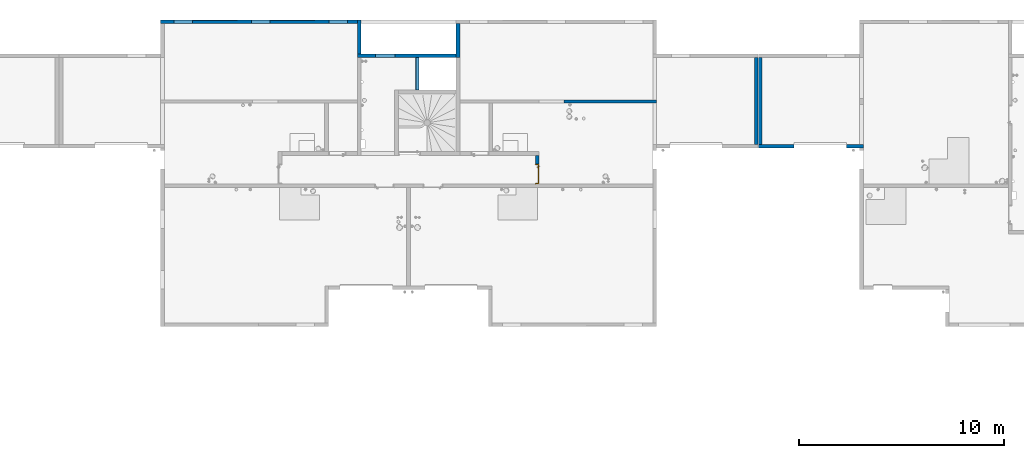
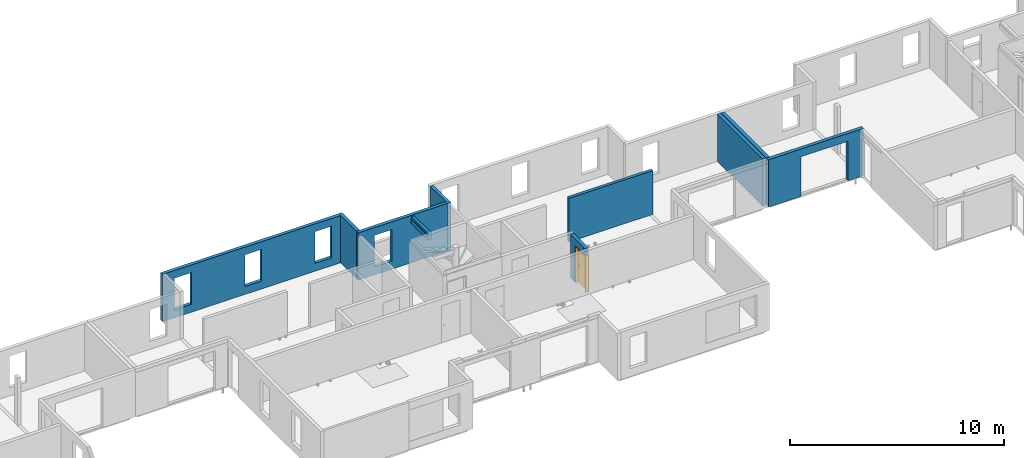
# One storey, part 12 of 30: 10 walls, 1 door, 11 openings.
"""IFC2X3 building model written with IfcOpenShell, lengths in centimetres."""

from ifc_helpers import new_model, entity, si_unit, converted_unit, derived_unit, direction, frame, frame_2d, origin, place, context, subcontext, project, spatial, polyline, rectangle, extrude, clip, bounded_halfspace, faceted_brep, source, transform, mapped, material, material_list, layer, layer_set, layer_usage, type_object, type_shapes, element, fill, save


model = new_model("IFC2X3")

# Units and contexts
model_context = context("Model", 3, precision=0.001, world=origin(), true_north=direction((6.12303176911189e-17, 1.0)))
body_context = subcontext(model_context, "Body", "Model", "MODEL_VIEW")
ifc_project = project(units=[si_unit("LENGTHUNIT", "METRE", prefix="CENTI"), si_unit("AREAUNIT", "SQUARE_METRE"), si_unit("VOLUMEUNIT", "CUBIC_METRE"), converted_unit("PLANEANGLEUNIT", "DEGREE", entity("IfcRatioMeasure", 0.0174532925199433), si_unit("PLANEANGLEUNIT", "RADIAN"), dimensions=[0, 0, 0, 0, 0, 0, 0]), si_unit("MASSUNIT", "GRAM", prefix="KILO"), derived_unit("MASSDENSITYUNIT", [(si_unit("MASSUNIT", "GRAM", prefix="KILO"), 1), (si_unit("LENGTHUNIT", "METRE"), -3)]), si_unit("TIMEUNIT", "SECOND"), si_unit("FREQUENCYUNIT", "HERTZ"), si_unit("THERMODYNAMICTEMPERATUREUNIT", "DEGREE_CELSIUS"), derived_unit("THERMALTRANSMITTANCEUNIT", [(si_unit("MASSUNIT", "GRAM", prefix="KILO"), 1), (si_unit("THERMODYNAMICTEMPERATUREUNIT", "KELVIN"), -1), (si_unit("TIMEUNIT", "SECOND"), -3)]), derived_unit("VOLUMETRICFLOWRATEUNIT", [(si_unit("LENGTHUNIT", "METRE"), 3), (si_unit("TIMEUNIT", "SECOND"), -1)]), si_unit("ELECTRICCURRENTUNIT", "AMPERE"), si_unit("ELECTRICVOLTAGEUNIT", "VOLT"), si_unit("POWERUNIT", "WATT"), si_unit("FORCEUNIT", "NEWTON"), si_unit("ILLUMINANCEUNIT", "LUX"), si_unit("LUMINOUSFLUXUNIT", "LUMEN"), si_unit("LUMINOUSINTENSITYUNIT", "CANDELA"), derived_unit("USERDEFINED", [(si_unit("MASSUNIT", "GRAM", prefix="KILO"), -1), (si_unit("LENGTHUNIT", "METRE"), -2), (si_unit("TIMEUNIT", "SECOND"), 3), (si_unit("LUMINOUSFLUXUNIT", "LUMEN"), 1)]), derived_unit("LINEARVELOCITYUNIT", [(si_unit("LENGTHUNIT", "METRE"), 1), (si_unit("TIMEUNIT", "SECOND"), -1)]), si_unit("PRESSUREUNIT", "PASCAL"), derived_unit("USERDEFINED", [(si_unit("LENGTHUNIT", "METRE"), -2), (si_unit("MASSUNIT", "GRAM", prefix="KILO"), 1), (si_unit("TIMEUNIT", "SECOND"), -2)])], contexts=[model_context])

# Site, building, storey
site_placement = place(None, origin())
site = spatial("IfcSite", under=ifc_project, at=site_placement, Name="Default", CompositionType="ELEMENT")
building_placement = place(site_placement, origin())
building = spatial("IfcBuilding", under=site, at=building_placement, Name="CAGE 03", CompositionType="ELEMENT")
storey_placement = place(building_placement, frame((0.0, 0.0, 610.0)))
storey = spatial("IfcBuildingStorey", under=building, at=storey_placement, Name="R+2", CompositionType="ELEMENT", Elevation=610.0)

# Wall
ifc_material_1 = material(Name="Béton, C25/30")
ifc_layer_1 = layer(ifc_material_1, 18.0)
ifc_layer_set_1 = layer_set([ifc_layer_1], Name="Mur de base:Voile BA 18")
ifc_layer_usage_1 = layer_usage(ifc_layer_set_1, "AXIS2", "POSITIVE", -9.0)
wall_type_1 = type_object("IfcWallType", Name="Mur de base:Voile BA 18", PredefinedType="STANDARD", material=ifc_layer_set_1)
wall_1_placement = place(storey_placement, frame((7322.36582014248, 5275.6606660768, 0.0), z_axis=(0.0, 0.0, 1.0), x_axis=(0.0, -1.0, 0.0)))
element("IfcWallStandardCase", 1, at=wall_1_placement, inside=storey, type_object=wall_type_1, material=ifc_layer_usage_1, Name="Mur de base:Voile BA 18", ObjectType="Mur de base:Voile BA 18", context=body_context, shape_type="SweptSolid", body=[
    extrude(rectangle(XDim=165.0, YDim=17.9999999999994, at=frame_2d((82.4999999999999, -2.1582735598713e-13), x_axis=(-1.0, 0.0))), origin(), (0.0, 0.0, 1.0), 270.0),
])

# Wall, openings
ifc_layer_usage_2 = layer_usage(ifc_layer_set_1, "AXIS2", "POSITIVE", -9.0)
wall_2_placement = place(storey_placement, frame((7313.36582014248, 5119.6606660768, 0.0), z_axis=(0.0, 0.0, 1.0), x_axis=(-1.0, 0.0, 0.0)))
wall_2 = element("IfcWallStandardCase", 2, at=wall_2_placement, inside=storey, type_object=wall_type_1, material=ifc_layer_usage_2, Name="Mur de base:Voile BA 18", ObjectType="Mur de base:Voile BA 18", context=body_context, shape_type="SweptSolid", body=[
    extrude(rectangle(XDim=482.0, YDim=17.9999999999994, at=frame_2d((241.0, -1.90958360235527e-13), x_axis=(-1.0, 0.0))), origin(), (0.0, 0.0, 1.0), 270.0),
])
opening_1_placement = place(wall_2_placement, origin())
element("IfcOpeningElement", 3, at=opening_1_placement, cuts=wall_2, Name="Mur de base:Voile BA 18", ObjectType="Opening", context=body_context, shape_type="SweptSolid", body=[
    extrude(rectangle(XDim=227.0, YDim=18.0000000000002, at=frame_2d((4.33431068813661e-13, 4.9737991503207e-14), x_axis=(0.0, 1.0))), frame((189.0, 9.0, 113.5), z_axis=(0.0, 1.0, 0.0), x_axis=(-1.0, 0.0, 0.0)), (0.0, 0.0, 1.0), 160.0),
])
opening_2_placement = place(wall_2_placement, frame((7313.36582014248, 5119.6606660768, 0.0), z_axis=(0.0, 0.0, 1.0), x_axis=(-1.0, 0.0, 0.0)))
element("IfcOpeningElement", 4, at=opening_2_placement, cuts=wall_2, Name="Mur de base:Voile BA 18", ObjectType="Opening", context=body_context, shape_type="SweptSolid", body=[
    extrude(rectangle(XDim=181.0, YDim=94.9999999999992, at=frame_2d((0.0, 0.0), x_axis=(0.0, 1.0))), frame((6966.86582014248, 5263.0606660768, 135.5), z_axis=(0.0, -1.0, 0.0), x_axis=(1.0, 0.0, 0.0)), (0.0, 0.0, 1.0), 304.8),
])

# Wall
ifc_layer_usage_3 = layer_usage(ifc_layer_set_1, "AXIS2", "POSITIVE", -9.0)
wall_3_placement = place(storey_placement, frame((6840.36582014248, 5128.6606660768, 0.0), z_axis=(0.0, 0.0, 1.0), x_axis=(0.0, 1.0, 0.0)))
element("IfcWallStandardCase", 5, at=wall_3_placement, inside=storey, type_object=wall_type_1, material=ifc_layer_usage_3, Name="Mur de base:Voile BA 18", ObjectType="Mur de base:Voile BA 18", context=body_context, shape_type="SweptSolid", body=[
    extrude(rectangle(XDim=165.000000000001, YDim=17.9999999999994, at=frame_2d((82.5000000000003, 1.77635683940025e-15), x_axis=(-1.0, 0.0))), origin(), (0.0, 0.0, 1.0), 270.0),
])

# Wall, openings
ifc_layer_usage_4 = layer_usage(ifc_layer_set_1, "AXIS2", "POSITIVE", -9.0)
wall_4_placement = place(storey_placement, frame((6831.36582014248, 5284.6606660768, 0.0), z_axis=(0.0, 0.0, 1.0), x_axis=(-1.0, 0.0, 0.0)))
wall_4 = element("IfcWallStandardCase", 6, at=wall_4_placement, inside=storey, type_object=wall_type_1, material=ifc_layer_usage_4, Name="Mur de base:Voile BA 18", ObjectType="Mur de base:Voile BA 18", context=body_context, shape_type="SweptSolid", body=[
    extrude(rectangle(XDim=961.0, YDim=17.9999999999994, at=frame_2d((480.5, -1.03028696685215e-13), x_axis=(-1.0, 0.0))), origin(), (0.0, 0.0, 1.0), 270.0),
])
opening_3_placement = place(wall_4_placement, origin())
element("IfcOpeningElement", 7, at=opening_3_placement, cuts=wall_4, Name="Mur de base:Voile BA 18", ObjectType="Recess", context=body_context, shape_type="SweptSolid", body=[
    extrude(rectangle(XDim=181.0, YDim=218.0, at=frame_2d((4.33431068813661e-13, 1.06581410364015e-13), x_axis=(0.0, 1.0))), frame((695.0, -9.0, 135.5), z_axis=(0.0, 1.0, 0.0), x_axis=(1.0, 0.0, 0.0)), (0.0, 0.0, 1.0), 1.99999999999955),
])
opening_4_placement = place(wall_4_placement, origin())
element("IfcOpeningElement", 8, at=opening_4_placement, cuts=wall_4, Name="Mur de base:Voile BA 18", ObjectType="Recess", context=body_context, shape_type="SweptSolid", body=[
    extrude(rectangle(XDim=181.0, YDim=218.0, at=frame_2d((-4.33431068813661e-13, 1.06581410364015e-13), x_axis=(0.0, 1.0))), frame((317.0, -9.0, 135.5), z_axis=(0.0, 1.0, 0.0), x_axis=(1.0, 0.0, 0.0)), (0.0, 0.0, 1.0), 1.99999999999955),
])
opening_5_placement = place(wall_4_placement, frame((6831.36582014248, 5284.6606660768, 0.0), z_axis=(0.0, 0.0, 1.0), x_axis=(-1.0, 0.0, 0.0)))
element("IfcOpeningElement", 9, at=opening_5_placement, cuts=wall_4, Name="Mur de base:Voile BA 18", ObjectType="Opening", context=body_context, shape_type="SweptSolid", body=[
    extrude(rectangle(XDim=181.0, YDim=91.0000000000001, at=frame_2d((0.0, 0.0), x_axis=(0.0, 1.0))), frame((5981.86582014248, 5428.0606660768, 135.5), z_axis=(0.0, -1.0, 0.0), x_axis=(1.0, 0.0, 0.0)), (0.0, 0.0, 1.0), 304.8),
])
opening_6_placement = place(wall_4_placement, frame((6831.36582014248, 5284.6606660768, 0.0), z_axis=(0.0, 0.0, 1.0), x_axis=(-1.0, 0.0, 0.0)))
element("IfcOpeningElement", 10, at=opening_6_placement, cuts=wall_4, Name="Mur de base:Voile BA 18", ObjectType="Opening", context=body_context, shape_type="SweptSolid", body=[
    extrude(rectangle(XDim=181.0, YDim=91.0000000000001, at=frame_2d((0.0, 0.0), x_axis=(0.0, 1.0))), frame((6359.86582014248, 5428.0606660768, 135.5), z_axis=(0.0, -1.0, 0.0), x_axis=(1.0, 0.0, 0.0)), (0.0, 0.0, 1.0), 304.8),
])
opening_7_placement = place(wall_4_placement, frame((6831.36582014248, 5284.6606660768, 0.0), z_axis=(0.0, 0.0, 1.0), x_axis=(-1.0, 0.0, 0.0)))
element("IfcOpeningElement", 11, at=opening_7_placement, cuts=wall_4, Name="Mur de base:Voile BA 18", ObjectType="Opening", context=body_context, shape_type="SweptSolid", body=[
    extrude(rectangle(XDim=181.0, YDim=91.0000000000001, at=frame_2d((0.0, 0.0), x_axis=(0.0, 1.0))), frame((6737.86582014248, 5428.0606660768, 135.5), z_axis=(0.0, -1.0, 0.0), x_axis=(1.0, 0.0, 0.0)), (0.0, 0.0, 1.0), 304.8),
])

# Wall, opening
ifc_layer_usage_5 = layer_usage(ifc_layer_set_1, "AXIS2", "POSITIVE", -9.0)
wall_5_placement = place(storey_placement, frame((7124.36582014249, 5110.6606660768, 227.0), z_axis=(0.0, 0.0, 1.0), x_axis=(0.0, -1.0, 0.0)))
wall_5 = element("IfcWallStandardCase", 12, at=wall_5_placement, inside=storey, type_object=wall_type_1, material=ifc_layer_usage_5, Name="Mur de base:Voile BA 18", ObjectType="Mur de base:Voile BA 18", context=body_context, shape_type="Clipping", body=[
    clip(clip(extrude(rectangle(XDim=160.000000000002, YDim=17.9999999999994, at=frame_2d((80.0000000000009, 2.16715534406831e-13), x_axis=(-1.0, 0.0))), origin(), (0.0, 0.0, 1.0), 36.0), bounded_halfspace(frame((160.0, -6.0, 23.0), z_axis=(0.0, 0.0, -1.0), x_axis=(0.0, -1.0, 0.0)), True, frame((160.0, -6.0, 23.0), z_axis=(0.0, 0.0, -1.0), x_axis=(0.0, -1.0, 0.0)), polyline([(0.0, 0.0), (3.0, 0.0), (3.0, 160.0), (0.0, 160.0), (0.0, 0.0)]))), bounded_halfspace(frame((0.0, -6.0, 23.0), z_axis=(0.0, 1.0, 0.0), x_axis=(0.0, 0.0, 1.0)), True, frame((0.0, -6.0, 23.0), z_axis=(0.0, 1.0, 0.0), x_axis=(0.0, 0.0, 1.0)), polyline([(0.0, 0.0), (13.0, 0.0), (13.0, 160.0), (0.0, 160.0), (0.0, 0.0)]))),
])
opening_8_placement = place(wall_5_placement, frame((5110.6606660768, -7124.36582014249, -227.0), z_axis=(0.0, 0.0, 1.0), x_axis=(0.0, 1.0, 0.0)))
element("IfcOpeningElement", 13, at=opening_8_placement, cuts=wall_5, Name="Mur de base:Voile BA 18", ObjectType="Opening", context=body_context, shape_type="SweptSolid", body=[
    extrude(rectangle(XDim=227.0, YDim=160.0, at=frame_2d((0.0, 4.9737991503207e-14), x_axis=(0.0, 1.0))), frame((6980.96582014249, 5030.6606660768, 113.5), z_axis=(1.0, 0.0, 0.0), x_axis=(0.0, 1.0, 0.0)), (0.0, 0.0, 1.0), 304.8),
])

# Wall, openings, door
ifc_layer_usage_6 = layer_usage(ifc_layer_set_1, "AXIS2", "NEGATIVE", 9.0)
wall_6_placement = place(storey_placement, frame((7709.36582014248, 4632.6606660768, 0.0), z_axis=(0.0, 0.0, 1.0), x_axis=(0.0, -1.0, 0.0)))
wall_6 = element("IfcWallStandardCase", 14, at=wall_6_placement, inside=storey, type_object=wall_type_1, material=ifc_layer_usage_6, Name="Mur de base:Voile BA 18", ObjectType="Mur de base:Voile BA 18", context=body_context, shape_type="SweptSolid", body=[
    extrude(rectangle(XDim=140.000000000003, YDim=17.9999999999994, at=frame_2d((70.0000000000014, 0.0), x_axis=(-1.0, 0.0))), origin(), (0.0, 0.0, 1.0), 250.0),
])
opening_9_placement = place(wall_6_placement, origin())
element("IfcOpeningElement", 15, at=opening_9_placement, cuts=wall_6, Name="Mur de base:Voile BA 18", ObjectType="Opening", context=body_context, shape_type="SweptSolid", body=[
    extrude(rectangle(XDim=10.0, YDim=19.9999999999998, at=frame_2d((4.33431068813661e-13, -5.41788836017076e-14), x_axis=(0.0, 1.0))), frame((130.0, -9.0, 242.5), z_axis=(0.0, 1.0, 0.0), x_axis=(1.0, 0.0, 0.0)), (0.0, 0.0, 1.0), 17.9999999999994),
])
opening_10_placement = place(wall_6_placement, frame((43.0, -9.0, 0.0)))
opening_10 = element("IfcOpeningElement", 16, at=opening_10_placement, cuts=wall_6, Name="Int. Simple:HB93:1", ObjectType="Opening", context=body_context, shape_type="SweptSolid", body=[
    extrude(rectangle(XDim=210.000000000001, YDim=96.9999999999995, at=frame_2d((105.000000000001, 48.4999999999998), x_axis=(1.0, 0.0))), frame((0.0, 0.0, 0.0), z_axis=(0.0, 1.0, 0.0), x_axis=(0.0, 0.0, 1.0)), (0.0, 0.0, 1.0), 18.0),
])
ifc_material_2 = material(Name="Finition Peinture - Blanc satiné")
ifc_material_3 = material(Name="Bois - Panneau de porte")
ifc_material_4 = material(Name="Bois - Cadre de porte")
ifc_material_list_1 = material_list([ifc_material_2, ifc_material_3, ifc_material_4])
ifc_material_list_2 = material_list([ifc_material_2, ifc_material_3, ifc_material_4])
door_style = type_object("IfcDoorStyle", Name="HB93", ConstructionType="NOTDEFINED", OperationType="SINGLE_SWING_RIGHT", ParameterTakesPrecedence=False, Sizeable=False, material=ifc_material_list_2)
shared_shape = source(origin(), body_context, "Body", "Brep", [
    faceted_brep([(96.5000000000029, -0.500000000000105, 87.0), (96.5000000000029, -0.500000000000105, 108.0), (95.535276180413, -0.500000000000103, 108.399601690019), (94.5000000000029, -0.500000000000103, 108.535898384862), (93.4647238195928, -0.500000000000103, 108.399601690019), (92.5000000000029, -0.500000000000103, 108.0), (92.5000000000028, -0.500000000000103, 87.0), (93.4647238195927, -0.500000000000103, 86.6003983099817), (94.5000000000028, -0.500000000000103, 86.464101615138), (95.5352761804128, -0.500000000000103, 86.6003983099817), (96.5000000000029, 0.0, 108.0), (96.5000000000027, 0.0, 87.0), (95.5352761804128, 0.0, 86.6003983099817), (94.5000000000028, 0.0, 86.464101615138), (93.4647238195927, 0.0, 86.6003983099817), (92.5000000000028, 0.0, 87.0), (92.5000000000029, 0.0, 108.0), (93.4647238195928, 0.0, 108.399601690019), (94.5000000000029, 0.0, 108.535898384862), (95.535276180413, 0.0, 108.399601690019)], [[[0, 1, 2, 3, 4, 5, 6, 7, 8, 9]], [[10, 11, 12, 13, 14, 15, 16, 17, 18, 19]], [[9, 12, 11, 0]], [[8, 13, 12, 9]], [[7, 14, 13, 8]], [[7, 6, 15, 14]], [[15, 6, 5, 16]], [[4, 17, 16, 5]], [[3, 18, 17, 4]], [[2, 19, 18, 3]], [[2, 1, 10, 19]], [[11, 10, 1, 0]]]),
    faceted_brep([(96.5000000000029, 4.0, 87.0), (96.5000000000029, 4.0, 108.0), (95.535276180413, 4.0, 108.399601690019), (94.5000000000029, 4.0, 108.535898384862), (93.4647238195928, 4.0, 108.399601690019), (92.500000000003, 4.0, 108.0), (92.5000000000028, 4.0, 87.0), (93.4647238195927, 4.0, 86.6003983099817), (94.5000000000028, 4.0, 86.464101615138), (95.5352761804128, 4.0, 86.6003983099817), (94.5000000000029, 4.49999999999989, 108.535898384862), (95.535276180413, 4.49999999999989, 108.399601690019), (96.5000000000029, 4.49999999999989, 108.0), (96.5000000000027, 4.49999999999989, 87.0), (95.5352761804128, 4.49999999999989, 86.6003983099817), (94.5000000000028, 4.49999999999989, 86.464101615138), (93.4647238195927, 4.49999999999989, 86.6003983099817), (92.5000000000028, 4.4999999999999, 87.0), (92.5000000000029, 4.4999999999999, 108.0), (93.4647238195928, 4.49999999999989, 108.399601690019)], [[[0, 1, 2, 3, 4, 5, 6, 7, 8, 9]], [[10, 11, 12, 13, 14, 15, 16, 17, 18, 19]], [[4, 19, 18, 5]], [[3, 10, 19, 4]], [[2, 11, 10, 3]], [[2, 1, 12, 11]], [[13, 12, 1, 0]], [[9, 14, 13, 0]], [[8, 15, 14, 9]], [[7, 16, 15, 8]], [[7, 6, 17, 16]], [[17, 6, 5, 18]]]),
    faceted_brep([(94.2974701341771, -0.500000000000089, 100.778044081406), (94.7025298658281, -0.500000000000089, 100.778044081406), (95.100000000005, -0.500000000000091, 100.699999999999), (95.100000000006, -0.500000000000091, 99.2999999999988), (94.7025298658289, -0.500000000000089, 99.221955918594), (94.297470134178, -0.500000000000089, 99.2219559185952), (93.9000000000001, -0.500000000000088, 99.3000000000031), (93.9000000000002, -0.500000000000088, 100.7), (94.7025298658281, -3.10045754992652, 100.778044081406), (95.1000000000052, -3.26509507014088, 100.7), (94.2974701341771, -2.93267631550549, 100.778044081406), (92.9298602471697, -4.30028620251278, 100.778044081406), (93.0976414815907, -4.70534593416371, 100.778044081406), (93.9000000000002, -2.76803879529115, 100.7), (93.9000000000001, -2.76803879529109, 99.3000000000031), (94.297470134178, -2.93267631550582, 99.2219559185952), (94.7025298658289, -3.10045754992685, 99.221955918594), (93.0976414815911, -4.70534593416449, 99.221955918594), (92.9298602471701, -4.30028620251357, 99.2219559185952), (95.100000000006, -3.26509507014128, 99.2999999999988), (93.2622790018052, -5.1028160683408, 100.7), (92.7652227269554, -3.90281606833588, 100.7), (92.7652227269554, -3.90281606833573, 99.3000000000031), (93.2622790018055, -5.10281606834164, 99.2999999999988), (84.4981359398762, -5.10281606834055, 100.7), (84.4981359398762, -4.70534593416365, 100.778044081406), (84.4981359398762, -4.30028620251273, 100.778044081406), (84.4981359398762, -3.90281606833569, 100.699999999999), (84.4981359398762, -3.90281606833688, 99.3000000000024), (84.4981359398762, -4.30028620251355, 99.2219559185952), (84.4981359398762, -4.70534593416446, 99.221955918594), (84.4981359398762, -5.10281606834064, 99.2999999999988), (88.7139980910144, -4.5028160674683, 100.78786867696), (89.2692302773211, -5.1028160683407, 100.7), (88.6316793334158, -3.90281606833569, 100.7), (88.631679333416, -3.90281606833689, 99.3000000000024), (88.7139981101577, -4.50281607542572, 99.2121313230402), (89.2692310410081, -5.10281606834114, 99.2999999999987)], [[[0, 1, 2, 3, 4, 5, 6, 7]], [[2, 1, 8, 9]], [[1, 0, 10, 11, 12, 8]], [[0, 7, 13, 10]], [[14, 13, 7, 6]], [[5, 15, 14, 6]], [[5, 4, 16, 17, 18, 15]], [[3, 19, 16, 4]], [[9, 19, 3, 2]], [[9, 8, 12, 20]], [[10, 13, 21, 11]], [[22, 21, 13, 14]], [[14, 15, 18, 22]], [[16, 19, 23, 17]], [[20, 23, 19, 9]], [[24, 25, 26, 27, 28, 29, 30, 31]], [[32, 25, 33]], [[33, 25, 24]], [[33, 20, 12]], [[11, 34, 32]], [[34, 11, 21]], [[27, 26, 34]], [[32, 26, 25]], [[32, 34, 26]], [[32, 33, 12]], [[11, 32, 12]], [[21, 22, 35, 28, 27, 34]], [[36, 29, 35]], [[30, 36, 37]], [[18, 35, 22]], [[29, 28, 35]], [[30, 37, 31]], [[37, 17, 23]], [[36, 17, 37]], [[36, 18, 17]], [[36, 35, 18]], [[29, 36, 30]], [[23, 20, 33, 24, 31, 37]]]),
    faceted_brep([(94.2974701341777, 4.49999999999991, 99.2219559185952), (94.7025298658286, 4.49999999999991, 99.221955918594), (95.1000000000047, 4.49999999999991, 99.2999999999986), (95.1000000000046, 4.49999999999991, 100.7), (94.7025298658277, 4.49999999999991, 100.778044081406), (94.2974701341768, 4.49999999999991, 100.778044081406), (93.8999999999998, 4.49999999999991, 100.7), (93.900000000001, 4.49999999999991, 99.3000000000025), (93.8999999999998, 6.7485204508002, 100.7), (93.8999999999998, 6.74852045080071, 99.3000000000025), (94.2974701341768, 6.91315797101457, 100.778044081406), (94.7025298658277, 7.0809392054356, 100.778044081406), (93.0838906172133, 8.69957845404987, 100.778044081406), (92.9161093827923, 8.29451872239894, 100.778044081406), (95.1000000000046, 7.24557672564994, 100.7), (95.1000000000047, 7.24557672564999, 99.2999999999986), (94.7025298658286, 7.08093920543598, 99.221955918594), (94.2974701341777, 6.91315797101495, 99.2219559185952), (92.9161093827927, 8.29451872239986, 99.2219559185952), (93.0838906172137, 8.69957845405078, 99.221955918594), (92.751471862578, 7.89704858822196, 100.7), (92.7514718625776, 7.89704858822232, 99.3000000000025), (93.2485281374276, 9.09704858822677, 100.7), (93.2485281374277, 9.09704858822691, 99.2999999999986), (84.4954216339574, 8.29451872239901, 100.778044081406), (84.4954216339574, 8.69957845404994, 100.778044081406), (84.4954216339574, 9.09704858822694, 100.7), (84.4954216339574, 9.09704858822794, 99.2999999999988), (84.4954216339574, 8.6995784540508, 99.221955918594), (84.4954216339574, 8.29451872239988, 99.2219559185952), (84.4954216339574, 7.89704858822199, 99.3000000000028), (84.4954216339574, 7.89704858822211, 100.7), (88.6234467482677, 7.89704858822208, 100.7), (88.6234479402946, 7.89704858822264, 99.3000000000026), (88.7057655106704, 8.49704858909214, 100.78786867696), (89.255479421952, 9.09704858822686, 100.7), (89.2554795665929, 9.09704858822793, 99.2999999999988), (88.7057654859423, 8.49704858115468, 99.2121313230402)], [[[0, 1, 2, 3, 4, 5, 6, 7]], [[8, 9, 7, 6]], [[5, 10, 8, 6]], [[5, 4, 11, 12, 13, 10]], [[3, 14, 11, 4]], [[14, 3, 2, 15]], [[2, 1, 16, 15]], [[1, 0, 17, 18, 19, 16]], [[0, 7, 9, 17]], [[20, 21, 9, 8]], [[8, 10, 13, 20]], [[14, 22, 12, 11]], [[23, 22, 14, 15]], [[15, 16, 19, 23]], [[17, 9, 21, 18]], [[24, 25, 26, 27, 28, 29, 30, 31]], [[21, 20, 32, 31, 30, 33]], [[34, 24, 32]], [[25, 34, 35]], [[13, 32, 20]], [[24, 31, 32]], [[25, 35, 26]], [[35, 12, 22]], [[34, 12, 35]], [[34, 13, 12]], [[34, 32, 13]], [[24, 34, 25]], [[22, 23, 36, 27, 26, 35]], [[37, 28, 36]], [[36, 28, 27]], [[36, 23, 19]], [[18, 33, 37]], [[33, 18, 21]], [[30, 29, 33]], [[37, 29, 28]], [[37, 33, 29]], [[37, 36, 19]], [[18, 37, 19]]]),
    faceted_brep([(100.500000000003, 4.0, 206.5), (100.500000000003, 4.0, 0.0), (10.5000000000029, 4.0, 0.0), (10.5000000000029, 4.0, 206.5), (100.500000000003, 0.0, 206.5), (10.5000000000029, 0.0, 206.5), (10.5000000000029, 0.0, 0.0), (100.500000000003, 0.0, 0.0)], [[[0, 1, 2, 3]], [[4, 5, 6, 7]], [[3, 5, 4, 0]], [[2, 6, 5, 3]], [[1, 7, 6, 2]], [[0, 4, 7, 1]]]),
    faceted_brep([(104.0, 0.0, 0.0), (100.500000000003, 0.0, 0.0), (100.500000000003, 4.0, 0.0), (99.0, 4.0, 0.0), (99.0, 18.0, 0.0), (104.0, 18.0, 0.0), (104.0, 18.0, 210.0), (104.0, 0.0, 210.0), (99.0, 18.0, 205.0), (12.0, 18.0, 205.0), (12.0, 18.0, 0.0), (7.0, 18.0, 0.0), (7.0, 18.0, 210.0), (99.0, 4.0, 205.0), (100.500000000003, 4.0, 206.5), (10.5000000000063, 4.0, 206.5), (10.5000000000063, 4.0, 0.0), (12.0, 4.0, 0.0), (12.0, 4.0, 205.0), (100.500000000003, 0.0, 206.5), (7.0, 0.0, 210.0), (7.0, 0.0, 0.0), (10.5000000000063, 0.0, 0.0), (10.5000000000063, 0.0, 206.5)], [[[0, 1, 2, 3, 4, 5]], [[5, 6, 7, 0]], [[4, 8, 9, 10, 11, 12, 6, 5]], [[3, 13, 8, 4]], [[2, 14, 15, 16, 17, 18, 13, 3]], [[1, 19, 14, 2]], [[0, 7, 20, 21, 22, 23, 19, 1]], [[12, 11, 21, 20]], [[21, 11, 10, 17, 16, 22]], [[18, 17, 10, 9]], [[23, 22, 16, 15]], [[6, 12, 20, 7]], [[13, 18, 9, 8]], [[19, 23, 15, 14]]]),
    faceted_brep([(102.500000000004, 18.0, 0.0), (102.500000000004, 18.5000000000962, 0.0), (105.500000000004, 18.5000000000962, 0.0), (105.500000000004, 18.0, 0.0), (105.500000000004, 18.0, 211.500000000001), (5.50000000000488, 18.0, 211.500000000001), (5.50000000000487, 18.0, 0.0), (8.50000000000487, 18.0, 0.0), (8.50000000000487, 18.0, 208.500000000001), (102.500000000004, 18.0, 208.500000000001), (105.500000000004, 18.5000000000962, 211.500000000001), (102.500000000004, 18.5000000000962, 208.500000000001), (8.50000000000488, 18.5000000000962, 208.500000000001), (8.50000000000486, 18.5000000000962, 0.0), (5.50000000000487, 18.5000000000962, 0.0), (5.50000000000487, 18.5000000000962, 211.500000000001)], [[[0, 1, 2, 3]], [[3, 4, 5, 6, 7, 8, 9, 0]], [[2, 10, 4, 3]], [[1, 11, 12, 13, 14, 15, 10, 2]], [[0, 9, 11, 1]], [[7, 6, 14, 13]], [[8, 7, 13, 12]], [[15, 14, 6, 5]], [[10, 15, 5, 4]], [[9, 8, 12, 11]]]),
    faceted_brep([(105.500000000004, -0.5, 0.0), (105.500000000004, -0.5, 211.500000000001), (5.50000000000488, -0.5, 211.500000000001), (5.50000000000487, -0.5, 0.0), (8.50000000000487, -0.5, 0.0), (8.50000000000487, -0.5, 208.500000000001), (102.500000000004, -0.5, 208.500000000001), (102.500000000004, -0.5, 0.0), (105.500000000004, 0.0, 0.0), (105.500000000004, 0.0, 211.500000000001), (102.500000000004, 0.0, 0.0), (102.500000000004, 0.0, 208.500000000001), (8.50000000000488, 0.0, 208.500000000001), (8.50000000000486, 0.0, 0.0), (5.50000000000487, 0.0, 0.0), (5.50000000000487, 0.0, 211.500000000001)], [[[0, 1, 2, 3, 4, 5, 6, 7]], [[8, 9, 1, 0]], [[10, 11, 12, 13, 14, 15, 9, 8]], [[7, 6, 11, 10]], [[5, 4, 13, 12]], [[15, 14, 3, 2]], [[9, 15, 2, 1]], [[6, 5, 12, 11]], [[4, 3, 14, 13]], [[7, 10, 8, 0]]]),
])
type_shapes(door_style, [shared_shape])
door_placement = place(opening_10_placement, frame((104.0, 18.0, 0.0), z_axis=(0.0, 0.0, 1.0), x_axis=(-1.0, 0.0, 0.0)))
door = element("IfcDoor", 17, at=door_placement, inside=storey, type_object=door_style, material=ifc_material_list_1, Name="Int. Simple:HB93", ObjectType="HB93", OverallHeight=210.000000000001, OverallWidth=96.9999999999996, context=body_context, shape_type="MappedRepresentation", body=[
    mapped(shared_shape, transform((0.0, 0.0, 0.0), scale=1.0)),
])
fill(opening_10, door)

# Walls
ifc_layer_usage_7 = layer_usage(ifc_layer_set_1, "AXIS2", "NEGATIVE", 9.0)
wall_7_placement = place(storey_placement, frame((8778.36582014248, 5110.6606660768, 0.0), z_axis=(0.0, 0.0, 1.0), x_axis=(0.0, -1.0, 0.0)))
element("IfcWallStandardCase", 18, at=wall_7_placement, inside=storey, type_object=wall_type_1, material=ifc_layer_usage_7, Name="Mur de base:Voile BA 18", ObjectType="Mur de base:Voile BA 18", context=body_context, shape_type="SweptSolid", body=[
    extrude(rectangle(XDim=423.999999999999, YDim=17.9999999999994, at=frame_2d((211.999999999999, 4.45865566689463e-13), x_axis=(-1.0, 0.0))), origin(), (0.0, 0.0, 1.0), 270.0),
])
ifc_layer_usage_8 = layer_usage(ifc_layer_set_1, "AXIS2", "POSITIVE", -9.0)
wall_8_placement = place(storey_placement, frame((8798.36582014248, 5110.6606660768, 0.0), z_axis=(0.0, 0.0, 1.0), x_axis=(0.0, -1.0, 0.0)))
element("IfcWallStandardCase", 19, at=wall_8_placement, inside=storey, type_object=wall_type_1, material=ifc_layer_usage_8, Name="Mur de base:Voile BA 18", ObjectType="Mur de base:Voile BA 18", context=body_context, shape_type="SweptSolid", body=[
    extrude(rectangle(XDim=424.000000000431, YDim=17.9999999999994, at=frame_2d((212.000000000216, 4.41424674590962e-13), x_axis=(-1.0, 0.0))), origin(), (0.0, 0.0, 1.0), 270.0),
])

# Wall, opening
ifc_layer_usage_9 = layer_usage(ifc_layer_set_1, "AXIS2", "POSITIVE", -9.0)
wall_9_placement = place(storey_placement, frame((8789.36582014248, 4677.66066607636, 0.0)))
wall_9 = element("IfcWallStandardCase", 20, at=wall_9_placement, inside=storey, type_object=wall_type_1, material=ifc_layer_usage_9, Name="Mur de base:Voile BA 18", ObjectType="Mur de base:Voile BA 18", context=body_context, shape_type="SweptSolid", body=[
    extrude(rectangle(XDim=513.000000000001, YDim=17.9999999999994, at=frame_2d((256.500000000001, -8.88178419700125e-16), x_axis=(-1.0, 0.0))), origin(), (0.0, 0.0, 1.0), 270.0),
])
opening_11_placement = place(wall_9_placement, frame((-8789.36582014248, -4677.66066607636, 0.0)))
element("IfcOpeningElement", 21, at=opening_11_placement, cuts=wall_9, Name="Mur de base:Voile BA 18", ObjectType="Opening", context=body_context, shape_type="SweptSolid", body=[
    extrude(rectangle(XDim=226.0, YDim=254.999999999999, at=frame_2d((8.66862137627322e-13, -5.6843418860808e-14), x_axis=(0.0, 1.0))), frame((9091.86582014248, 4516.26066607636, 113.0), z_axis=(0.0, 1.0, 0.0), x_axis=(-1.0, 0.0, 0.0)), (0.0, 0.0, 1.0), 304.8),
])

# Wall
ifc_layer_2 = layer(ifc_material_1, 16.0)
ifc_layer_set_2 = layer_set([ifc_layer_2], Name="Mur de base:Voile BA 16")
ifc_layer_usage_10 = layer_usage(ifc_layer_set_2, "AXIS2", "NEGATIVE", 8.0)
wall_type_2 = type_object("IfcWallType", Name="Mur de base:Voile BA 16", PredefinedType="STANDARD", material=ifc_layer_set_2)
wall_10_placement = place(storey_placement, frame((7840.36582014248, 4895.6606660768, 0.0)))
element("IfcWallStandardCase", 22, at=wall_10_placement, inside=storey, type_object=wall_type_2, material=ifc_layer_usage_10, Name="Mur de base:Voile BA 16", ObjectType="Mur de base:Voile BA 16", context=body_context, shape_type="SweptSolid", body=[
    extrude(rectangle(XDim=451.999999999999, YDim=15.9999999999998, at=frame_2d((226.0, 3.28626015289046e-14), x_axis=(-1.0, 0.0))), origin(), (0.0, 0.0, 1.0), 250.0),
])

save(model, "model.ifc")
